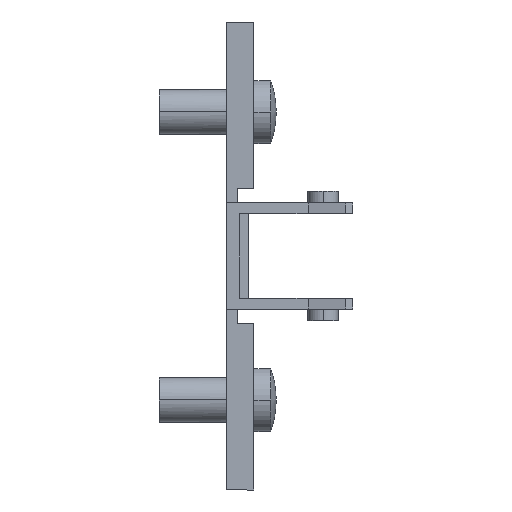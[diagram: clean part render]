
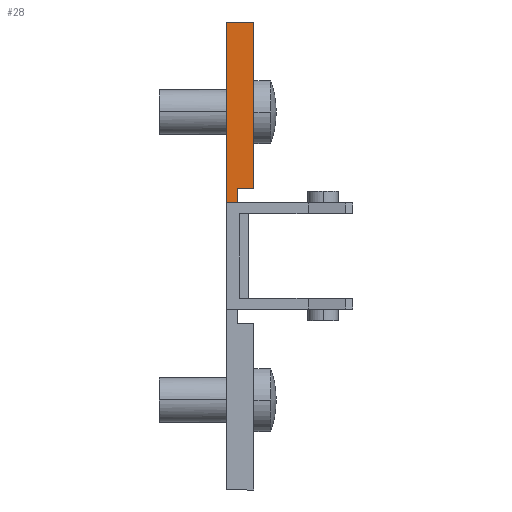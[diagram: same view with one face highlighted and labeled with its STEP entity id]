
A CAD part, front view. The second image highlights one B-rep face of the part: STEP entity #28.
In plain terms, the highlighted planar face has unit normal (0, -1, 0).
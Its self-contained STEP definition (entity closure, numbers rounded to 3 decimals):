
#28 = ADVANCED_FACE ( 'NONE', ( #3559 ), #1501, .F. ) ;
#119 = VECTOR ( 'NONE', #2443, 1000. ) ;
#124 = LINE ( 'NONE', #2621, #119 ) ;
#161 = VERTEX_POINT ( 'NONE', #1535 ) ;
#220 = DIRECTION ( 'NONE',  ( 0., 0., -1. ) ) ;
#265 = CARTESIAN_POINT ( 'NONE',  ( 3., -9., 7.5 ) ) ;
#268 = CARTESIAN_POINT ( 'NONE',  ( 0., -9., 5. ) ) ;
#269 = DIRECTION ( 'NONE',  ( 0., 0., 1. ) ) ;
#270 = DIRECTION ( 'NONE',  ( -1., 0., 0. ) ) ;
#374 = CARTESIAN_POINT ( 'NONE',  ( 0., -9., 5.9 ) ) ;
#397 = DIRECTION ( 'NONE',  ( -1., 0., 0. ) ) ;
#403 = CARTESIAN_POINT ( 'NONE',  ( 1.2, -9., 7.5 ) ) ;
#488 = CARTESIAN_POINT ( 'NONE',  ( 3., -9., 26. ) ) ;
#496 = CARTESIAN_POINT ( 'NONE',  ( 1.2, -9., 7.5 ) ) ;
#560 = CARTESIAN_POINT ( 'NONE',  ( 1.2, -9., 5.9 ) ) ;
#773 = CARTESIAN_POINT ( 'NONE',  ( 0., -9., 26. ) ) ;
#774 = CARTESIAN_POINT ( 'NONE',  ( 0., -9., 5.9 ) ) ;
#1414 = DIRECTION ( 'NONE',  ( 0., 1., 0. ) ) ;
#1479 = DIRECTION ( 'NONE',  ( 0., 0., 1. ) ) ;
#1498 = CARTESIAN_POINT ( 'NONE',  ( 0., -9., 5. ) ) ;
#1501 = PLANE ( 'NONE',  #2040 ) ;
#1535 = CARTESIAN_POINT ( 'NONE',  ( 3., -9., 7.5 ) ) ;
#1662 = EDGE_CURVE ( 'NONE', #2829, #2887, #124, .T. ) ;
#1752 = EDGE_CURVE ( 'NONE', #2887, #161, #2359, .T. ) ;
#1835 = EDGE_CURVE ( 'NONE', #2901, #2885, #2239, .T. ) ;
#1910 = EDGE_CURVE ( 'NONE', #2885, #2831, #2166, .T. ) ;
#1922 = EDGE_CURVE ( 'NONE', #2831, #2829, #2130, .T. ) ;
#2028 = EDGE_CURVE ( 'NONE', #161, #2901, #3297, .T. ) ;
#2040 = AXIS2_PLACEMENT_3D ( 'NONE', #1498, #1414, #1479 ) ;
#2129 = VECTOR ( 'NONE', #269, 1000. ) ;
#2130 = LINE ( 'NONE', #268, #2129 ) ;
#2166 = LINE ( 'NONE', #374, #2180 ) ;
#2180 = VECTOR ( 'NONE', #397, 1000. ) ;
#2238 = VECTOR ( 'NONE', #220, 1000. ) ;
#2239 = LINE ( 'NONE', #403, #2238 ) ;
#2334 = VECTOR ( 'NONE', #2572, 1000. ) ;
#2359 = LINE ( 'NONE', #2503, #2334 ) ;
#2443 = DIRECTION ( 'NONE',  ( 1., 0., 0. ) ) ;
#2503 = CARTESIAN_POINT ( 'NONE',  ( 3., -9., 26. ) ) ;
#2572 = DIRECTION ( 'NONE',  ( 0., 0., -1. ) ) ;
#2621 = CARTESIAN_POINT ( 'NONE',  ( 0., -9., 26. ) ) ;
#2829 = VERTEX_POINT ( 'NONE', #773 ) ;
#2831 = VERTEX_POINT ( 'NONE', #774 ) ;
#2885 = VERTEX_POINT ( 'NONE', #560 ) ;
#2887 = VERTEX_POINT ( 'NONE', #488 ) ;
#2901 = VERTEX_POINT ( 'NONE', #496 ) ;
#3068 = EDGE_LOOP ( 'NONE', ( #3517, #3538, #3535, #3536, #3555, #3524 ) ) ;
#3297 = LINE ( 'NONE', #265, #3299 ) ;
#3299 = VECTOR ( 'NONE', #270, 1000. ) ;
#3517 = ORIENTED_EDGE ( 'NONE', *, *, #1922, .F. ) ;
#3524 = ORIENTED_EDGE ( 'NONE', *, *, #1662, .F. ) ;
#3535 = ORIENTED_EDGE ( 'NONE', *, *, #1835, .F. ) ;
#3536 = ORIENTED_EDGE ( 'NONE', *, *, #2028, .F. ) ;
#3538 = ORIENTED_EDGE ( 'NONE', *, *, #1910, .F. ) ;
#3555 = ORIENTED_EDGE ( 'NONE', *, *, #1752, .F. ) ;
#3559 = FACE_OUTER_BOUND ( 'NONE', #3068, .T. ) ;
